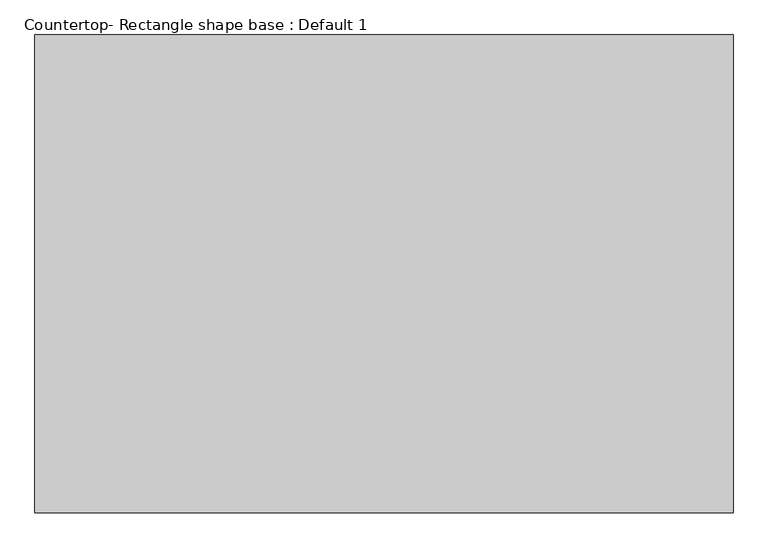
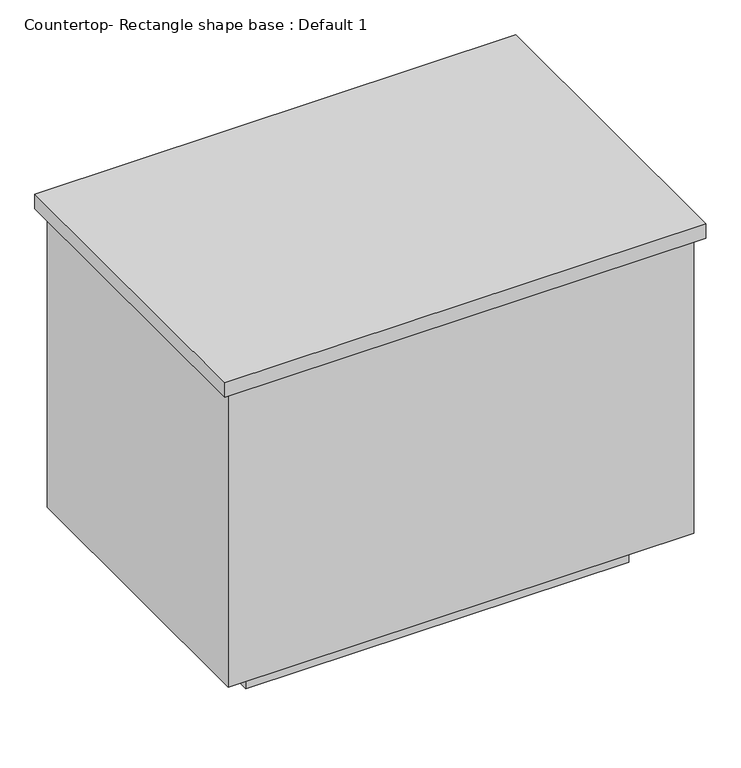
"""IFC4 building model written with IfcOpenShell, lengths in millimetres: proxy geometry, Countertop- Rectangle shape base : Default 1."""

from ifc_helpers import new_model, si_unit, frame, origin, origin_with_axes, place, context, project, spatial, polyline, outline, extrude, source, transform, mapped, element, save


def countertop_rectangle_shape_base_default_1_b1be43f6(model_context):
    return source(origin(), model_context, "Body", "SweptSolid", [
        extrude(outline(polyline([(168.275, -25.4), (168.275, 787.4), (1355.725, 787.4), (1355.725, -25.4), (168.275, -25.4)])), frame((0.0, 0.0, 876.3), z_axis=(0.0, 0.0, 1.0), x_axis=(1.0, 0.0, 0.0)), (0.0, 0.0, 1.0), 38.1),
        extrude(outline(polyline([(1336.675, 768.35), (1336.675, -6.35), (187.325, -6.35), (187.325, 768.35), (1336.675, 768.35)])), frame((0.0, 0.0, 101.6), z_axis=(0.0, 0.0, 1.0), x_axis=(1.0, 0.0, 0.0)), (0.0, 0.0, 1.0), 774.7),
        extrude(outline(polyline([(1235.075, 666.75), (1235.075, 95.25), (288.925, 95.25), (288.925, 666.75), (1235.075, 666.75)])), origin_with_axes(), (0.0, 0.0, 1.0), 101.6),
    ])


if __name__ == "__main__":
    model = new_model("IFC4")
    model_context = context("Model", 3, world=origin())
    ifc_project = project(units=[si_unit("LENGTHUNIT", "METRE", prefix="MILLI")], contexts=[model_context])
    site = spatial("IfcSite", under=ifc_project)
    building = spatial("IfcBuilding", under=site)
    placement = place(None, origin())
    countertop_rectangle_shape_base_default_1_shape = countertop_rectangle_shape_base_default_1_b1be43f6(model_context)
    element("IfcBuildingElementProxy", 1, Name="Countertop- Rectangle shape base : Default 1", ObjectType="Countertop- Rectangle shape base : Default 1", at=placement, inside=building, context=model_context, shape_type="MappedRepresentation", body=[
        mapped(countertop_rectangle_shape_base_default_1_shape, transform((0.0, 0.0, 0.0), x_axis=(1.0, 0.0, 0.0), y_axis=(0.0, 1.0, 0.0), z_axis=(0.0, 0.0, 1.0))),
    ])
    save(model, "model.ifc")
